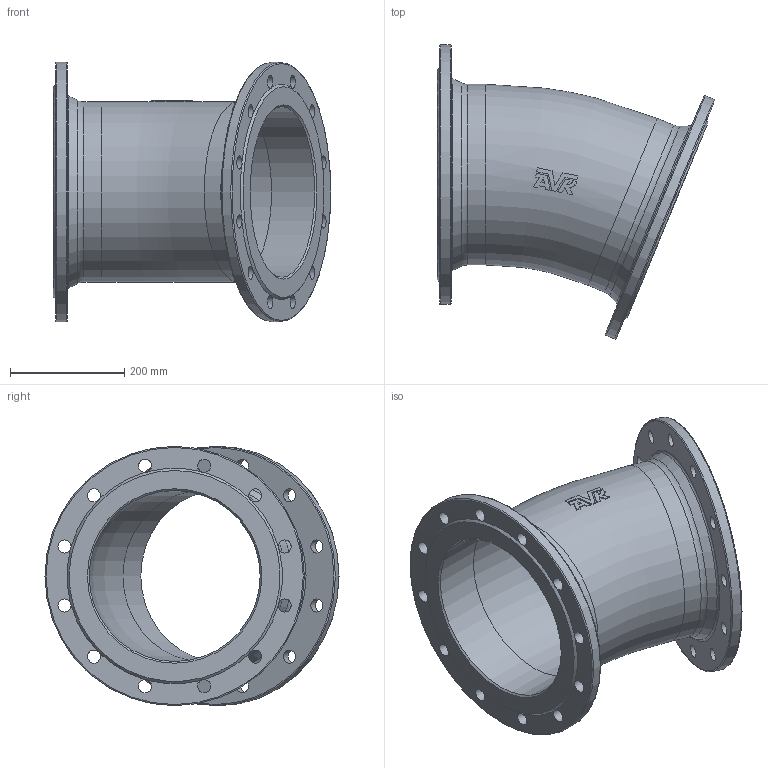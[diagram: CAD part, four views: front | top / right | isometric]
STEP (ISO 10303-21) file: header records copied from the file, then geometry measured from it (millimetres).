
FILE_DESCRIPTION (( 'STEP AP203' ), '1' );
FILE_NAME ('O_712_0210_DN300_0X_REV01.step', '2024-08-15T12:15:05', ( '' ), ( '' ), 'SwSTEP 2.0', 'SolidWorks 2022', '' );
FILE_SCHEMA (( 'CONFIG_CONTROL_DESIGN' ));
Length unit declared in the file: millimetre
Products named in the file (1): O_712_0210_DN300_0X_REV01
Bounding box: 486.76 x 515.9 x 455 mm (x, y, z)
Volume: 7168705.2 mm3; surface area: 1163113.9 mm2
Topology: 1 solids, 1 shells, 93 faces, 312 edges, 205 vertices
Faces by surface type: plane 41, cylinder 32, torus 14, cone 6
Full cylindrical faces by diameter (mm): 23 x24, 300 x2, 317 x2, 455 x2
Entity records: 3464 total; most frequent: CARTESIAN_POINT 1097, ORIENTED_EDGE 466, DIRECTION 421, EDGE_CURVE 233, AXIS2_PLACEMENT_3D 192, EDGE_LOOP 173, VERTEX_POINT 172, FACE_OUTER_BOUND 133
